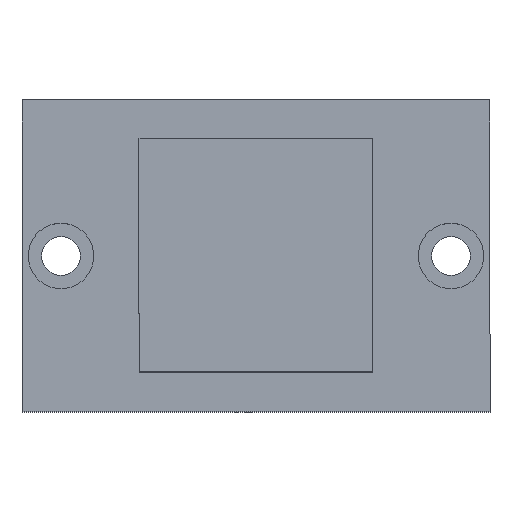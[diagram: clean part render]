
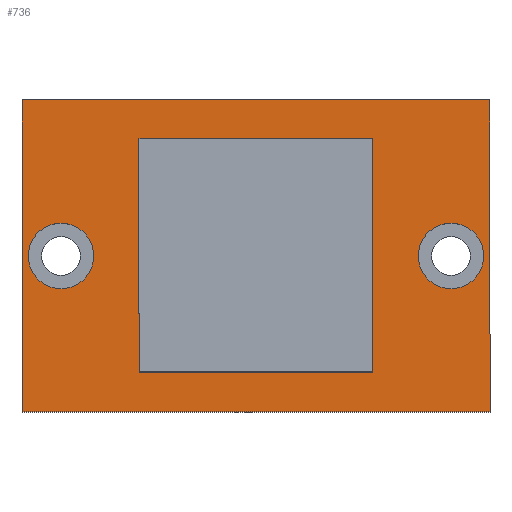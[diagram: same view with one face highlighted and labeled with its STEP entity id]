
A CAD part, top view. The second image highlights one B-rep face of the part: STEP entity #736.
In plain terms, the highlighted planar face has unit normal (0, 0, 1).
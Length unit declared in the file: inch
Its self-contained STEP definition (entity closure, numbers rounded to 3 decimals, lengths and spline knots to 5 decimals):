
#4 = CARTESIAN_POINT ( 'NONE',  ( -1.97714, -1.01143, 0.5 ) ) ;
#20 = AXIS2_PLACEMENT_3D ( 'NONE', #556, #554, #552 ) ;
#31 = ORIENTED_EDGE ( 'NONE', *, *, #331, .T. ) ;
#41 = CARTESIAN_POINT ( 'NONE',  ( -1.22714, 0.73857, 0.5 ) ) ;
#45 = AXIS2_PLACEMENT_3D ( 'NONE', #536, #571, #569 ) ;
#49 = VECTOR ( 'NONE', #241, 39.37008 ) ;
#57 = DIRECTION ( 'NONE',  ( 1., 0., 0. ) ) ;
#63 = CARTESIAN_POINT ( 'NONE',  ( 0.26786, -0.75643, 0.5 ) ) ;
#65 = AXIS2_PLACEMENT_3D ( 'NONE', #671, #667, #665 ) ;
#68 = DIRECTION ( 'NONE',  ( 0., 0., 1. ) ) ;
#69 = VECTOR ( 'NONE', #113, 39.37008 ) ;
#74 = CARTESIAN_POINT ( 'NONE',  ( -1.72714, -0.01143, 0.5 ) ) ;
#83 = CARTESIAN_POINT ( 'NONE',  ( 1.02286, 0.98857, 0.5 ) ) ;
#84 = EDGE_CURVE ( 'NONE', #681, #297, #162, .T. ) ;
#90 = VERTEX_POINT ( 'NONE', #720 ) ;
#104 = ORIENTED_EDGE ( 'NONE', *, *, #648, .F. ) ;
#113 = DIRECTION ( 'NONE',  ( 1., 0., 0. ) ) ;
#116 = LINE ( 'NONE', #407, #49 ) ;
#117 = ORIENTED_EDGE ( 'NONE', *, *, #411, .F. ) ;
#122 = VECTOR ( 'NONE', #738, 39.37008 ) ;
#126 = DIRECTION ( 'NONE',  ( 0., -1., 0. ) ) ;
#148 = VERTEX_POINT ( 'NONE', #184 ) ;
#151 = CARTESIAN_POINT ( 'NONE',  ( -1.22714, -0.75643, 0.5 ) ) ;
#154 = LINE ( 'NONE', #159, #293 ) ;
#159 = CARTESIAN_POINT ( 'NONE',  ( -1.97714, 0.98857, 0.5 ) ) ;
#162 = LINE ( 'NONE', #664, #218 ) ;
#163 = LINE ( 'NONE', #151, #69 ) ;
#164 = EDGE_LOOP ( 'NONE', ( #200, #294 ) ) ;
#170 = DIRECTION ( 'NONE',  ( 0., -1., 0. ) ) ;
#171 = EDGE_CURVE ( 'NONE', #297, #277, #163, .T. ) ;
#184 = CARTESIAN_POINT ( 'NONE',  ( 0.26786, 0.73857, 0.5 ) ) ;
#186 = EDGE_LOOP ( 'NONE', ( #374, #104 ) ) ;
#191 = VERTEX_POINT ( 'NONE', #478 ) ;
#197 = LINE ( 'NONE', #41, #122 ) ;
#200 = ORIENTED_EDGE ( 'NONE', *, *, #450, .F. ) ;
#203 = CARTESIAN_POINT ( 'NONE',  ( -1.22714, -0.75643, 0.5 ) ) ;
#218 = VECTOR ( 'NONE', #126, 39.37008 ) ;
#221 = EDGE_LOOP ( 'NONE', ( #420, #31, #382, #242 ) ) ;
#228 = VERTEX_POINT ( 'NONE', #83 ) ;
#239 = CIRCLE ( 'NONE', #65, 0.21 ) ;
#241 = DIRECTION ( 'NONE',  ( 1., 0., 0. ) ) ;
#242 = ORIENTED_EDGE ( 'NONE', *, *, #356, .T. ) ;
#249 = EDGE_CURVE ( 'NONE', #404, #572, #154, .T. ) ;
#259 = EDGE_CURVE ( 'NONE', #191, #90, #735, .T. ) ;
#277 = VERTEX_POINT ( 'NONE', #63 ) ;
#284 = CARTESIAN_POINT ( 'NONE',  ( 1.02286, 0.98857, 0.5 ) ) ;
#293 = VECTOR ( 'NONE', #170, 39.37008 ) ;
#294 = ORIENTED_EDGE ( 'NONE', *, *, #259, .F. ) ;
#297 = VERTEX_POINT ( 'NONE', #203 ) ;
#301 = ORIENTED_EDGE ( 'NONE', *, *, #84, .F. ) ;
#309 = CARTESIAN_POINT ( 'NONE',  ( 0.98286, -0.01143, 0.5 ) ) ;
#311 = LINE ( 'NONE', #658, #568 ) ;
#314 = FACE_BOUND ( 'NONE', #452, .T. ) ;
#319 = FACE_BOUND ( 'NONE', #164, .T. ) ;
#331 = EDGE_CURVE ( 'NONE', #572, #351, #116, .T. ) ;
#333 = VECTOR ( 'NONE', #456, 39.37008 ) ;
#346 = DIRECTION ( 'NONE',  ( 1., 0., 0. ) ) ;
#347 = DIRECTION ( 'NONE',  ( 0., 0., 1. ) ) ;
#351 = VERTEX_POINT ( 'NONE', #742 ) ;
#353 = CARTESIAN_POINT ( 'NONE',  ( -1.72714, -0.01143, 0.5 ) ) ;
#356 = EDGE_CURVE ( 'NONE', #228, #404, #311, .T. ) ;
#370 = VERTEX_POINT ( 'NONE', #574 ) ;
#373 = ORIENTED_EDGE ( 'NONE', *, *, #649, .F. ) ;
#374 = ORIENTED_EDGE ( 'NONE', *, *, #737, .F. ) ;
#382 = ORIENTED_EDGE ( 'NONE', *, *, #527, .T. ) ;
#404 = VERTEX_POINT ( 'NONE', #486 ) ;
#407 = CARTESIAN_POINT ( 'NONE',  ( -1.97714, -1.01143, 0.5 ) ) ;
#411 = EDGE_CURVE ( 'NONE', #277, #148, #749, .T. ) ;
#420 = ORIENTED_EDGE ( 'NONE', *, *, #249, .T. ) ;
#424 = CIRCLE ( 'NONE', #20, 0.21 ) ;
#450 = EDGE_CURVE ( 'NONE', #90, #191, #519, .T. ) ;
#452 = EDGE_LOOP ( 'NONE', ( #301, #373, #117, #457 ) ) ;
#456 = DIRECTION ( 'NONE',  ( 0., 1., 0. ) ) ;
#457 = ORIENTED_EDGE ( 'NONE', *, *, #171, .F. ) ;
#475 = VERTEX_POINT ( 'NONE', #309 ) ;
#478 = CARTESIAN_POINT ( 'NONE',  ( -1.93714, -0.01143, 0.5 ) ) ;
#480 = CARTESIAN_POINT ( 'NONE',  ( 0.26786, 0.73857, 0.5 ) ) ;
#485 = FACE_OUTER_BOUND ( 'NONE', #221, .T. ) ;
#486 = CARTESIAN_POINT ( 'NONE',  ( -1.97714, 0.98857, 0.5 ) ) ;
#519 = CIRCLE ( 'NONE', #692, 0.21 ) ;
#527 = EDGE_CURVE ( 'NONE', #351, #228, #696, .T. ) ;
#536 = CARTESIAN_POINT ( 'NONE',  ( 0., 0., 0.5 ) ) ;
#550 = DIRECTION ( 'NONE',  ( -1., 0., 0. ) ) ;
#552 = DIRECTION ( 'NONE',  ( 1., 0., 0. ) ) ;
#553 = DIRECTION ( 'NONE',  ( 0., 1., 0. ) ) ;
#554 = DIRECTION ( 'NONE',  ( 0., 0., 1. ) ) ;
#556 = CARTESIAN_POINT ( 'NONE',  ( 0.77286, -0.01143, 0.5 ) ) ;
#568 = VECTOR ( 'NONE', #550, 39.37008 ) ;
#569 = DIRECTION ( 'NONE',  ( 1., 0., 0. ) ) ;
#571 = DIRECTION ( 'NONE',  ( 0., 0., 1. ) ) ;
#572 = VERTEX_POINT ( 'NONE', #4 ) ;
#574 = CARTESIAN_POINT ( 'NONE',  ( 0.56286, -0.01143, 0.5 ) ) ;
#580 = CARTESIAN_POINT ( 'NONE',  ( -1.22714, 0.73857, 0.5 ) ) ;
#598 = PLANE ( 'NONE',  #45 ) ;
#606 = AXIS2_PLACEMENT_3D ( 'NONE', #74, #68, #57 ) ;
#648 = EDGE_CURVE ( 'NONE', #370, #475, #239, .T. ) ;
#649 = EDGE_CURVE ( 'NONE', #148, #681, #197, .T. ) ;
#658 = CARTESIAN_POINT ( 'NONE',  ( -1.97714, 0.98857, 0.5 ) ) ;
#659 = FACE_BOUND ( 'NONE', #186, .T. ) ;
#664 = CARTESIAN_POINT ( 'NONE',  ( -1.22714, 0.73857, 0.5 ) ) ;
#665 = DIRECTION ( 'NONE',  ( 1., 0., 0. ) ) ;
#667 = DIRECTION ( 'NONE',  ( 0., 0., 1. ) ) ;
#671 = CARTESIAN_POINT ( 'NONE',  ( 0.77286, -0.01143, 0.5 ) ) ;
#681 = VERTEX_POINT ( 'NONE', #580 ) ;
#692 = AXIS2_PLACEMENT_3D ( 'NONE', #353, #347, #346 ) ;
#696 = LINE ( 'NONE', #284, #700 ) ;
#700 = VECTOR ( 'NONE', #553, 39.37008 ) ;
#720 = CARTESIAN_POINT ( 'NONE',  ( -1.51714, -0.01143, 0.5 ) ) ;
#735 = CIRCLE ( 'NONE', #606, 0.21 ) ;
#736 = ADVANCED_FACE ( 'NONE', ( #319, #659, #314, #485 ), #598, .T. ) ;
#737 = EDGE_CURVE ( 'NONE', #475, #370, #424, .T. ) ;
#738 = DIRECTION ( 'NONE',  ( -1., 0., 0. ) ) ;
#742 = CARTESIAN_POINT ( 'NONE',  ( 1.02286, -1.01143, 0.5 ) ) ;
#749 = LINE ( 'NONE', #480, #333 ) ;
